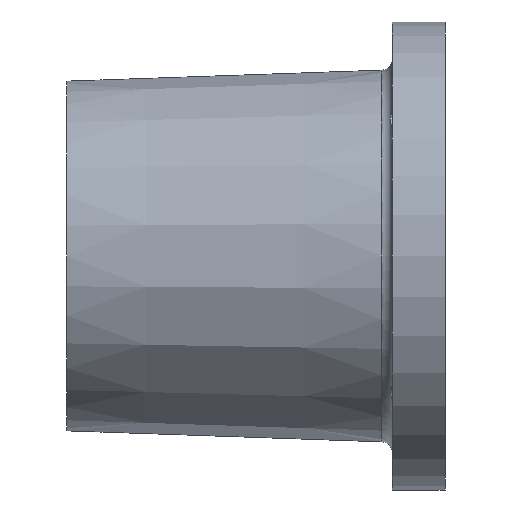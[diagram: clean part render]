
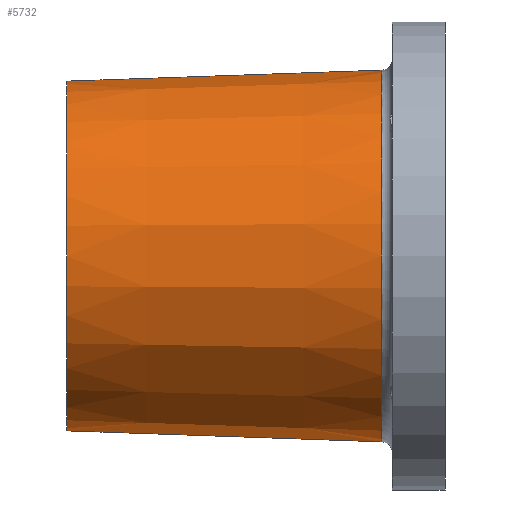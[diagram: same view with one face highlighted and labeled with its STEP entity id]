
A CAD part, left-side view. The second image highlights one B-rep face of the part: STEP entity #5732.
In plain terms, the highlighted conical face has half-angle 2 degrees and reference radius 71.141 mm.
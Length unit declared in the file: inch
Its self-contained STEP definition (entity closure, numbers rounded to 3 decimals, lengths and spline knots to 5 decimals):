
#430 = CARTESIAN_POINT ( 'NONE',  ( 0., 6.06, 2.80185 ) ) ;
#566 = CARTESIAN_POINT ( 'NONE',  ( 0., 1.01772, -2.97793 ) ) ;
#1026 = DIRECTION ( 'NONE',  ( 0., 1., 0. ) ) ;
#1115 = CARTESIAN_POINT ( 'NONE',  ( 0., 1.01772, 2.97793 ) ) ;
#1469 = CARTESIAN_POINT ( 'NONE',  ( 0., 6.089, 2.80084 ) ) ;
#1602 = VERTEX_POINT ( 'NONE', #566 ) ;
#1946 = DIRECTION ( 'NONE',  ( 0., -0.999, -0.035 ) ) ;
#1966 = DIRECTION ( 'NONE',  ( 0., 1., 0. ) ) ;
#2109 = CONICAL_SURFACE ( 'NONE', #3238, 2.80084, 0.035 ) ;
#2361 = LINE ( 'NONE', #1469, #3759 ) ;
#2468 = CARTESIAN_POINT ( 'NONE',  ( 0., 6.089, -2.80084 ) ) ;
#2498 = AXIS2_PLACEMENT_3D ( 'NONE', #4130, #1026, #4637 ) ;
#3174 = AXIS2_PLACEMENT_3D ( 'NONE', #5116, #1966, #5669 ) ;
#3190 = CIRCLE ( 'NONE', #3174, 2.97793 ) ;
#3238 = AXIS2_PLACEMENT_3D ( 'NONE', #6668, #4458, #4995 ) ;
#3456 = EDGE_LOOP ( 'NONE', ( #3702, #3506, #5828, #5352 ) ) ;
#3506 = ORIENTED_EDGE ( 'NONE', *, *, #6479, .F. ) ;
#3599 = VECTOR ( 'NONE', #1946, 39.37008 ) ;
#3689 = FACE_OUTER_BOUND ( 'NONE', #3456, .T. ) ;
#3702 = ORIENTED_EDGE ( 'NONE', *, *, #6405, .F. ) ;
#3759 = VECTOR ( 'NONE', #5048, 39.37008 ) ;
#3794 = VERTEX_POINT ( 'NONE', #430 ) ;
#4130 = CARTESIAN_POINT ( 'NONE',  ( 0., 6.06, 0. ) ) ;
#4458 = DIRECTION ( 'NONE',  ( 0., -1., 0. ) ) ;
#4637 = DIRECTION ( 'NONE',  ( 0., 0., 1. ) ) ;
#4995 = DIRECTION ( 'NONE',  ( 0., 0., -1. ) ) ;
#5048 = DIRECTION ( 'NONE',  ( 0., -0.999, 0.035 ) ) ;
#5116 = CARTESIAN_POINT ( 'NONE',  ( 0., 1.01772, 0. ) ) ;
#5164 = CIRCLE ( 'NONE', #2498, 2.80185 ) ;
#5352 = ORIENTED_EDGE ( 'NONE', *, *, #5796, .T. ) ;
#5669 = DIRECTION ( 'NONE',  ( 0., 0., -1. ) ) ;
#5732 = ADVANCED_FACE ( 'NONE', ( #3689 ), #2109, .T. ) ;
#5796 = EDGE_CURVE ( 'NONE', #1602, #5863, #3190, .T. ) ;
#5828 = ORIENTED_EDGE ( 'NONE', *, *, #6417, .T. ) ;
#5863 = VERTEX_POINT ( 'NONE', #1115 ) ;
#6120 = CARTESIAN_POINT ( 'NONE',  ( 0., 6.06, -2.80185 ) ) ;
#6156 = VERTEX_POINT ( 'NONE', #6120 ) ;
#6405 = EDGE_CURVE ( 'NONE', #3794, #5863, #2361, .T. ) ;
#6417 = EDGE_CURVE ( 'NONE', #6156, #1602, #6465, .T. ) ;
#6465 = LINE ( 'NONE', #2468, #3599 ) ;
#6479 = EDGE_CURVE ( 'NONE', #6156, #3794, #5164, .T. ) ;
#6668 = CARTESIAN_POINT ( 'NONE',  ( 0., 6.089, 0. ) ) ;
